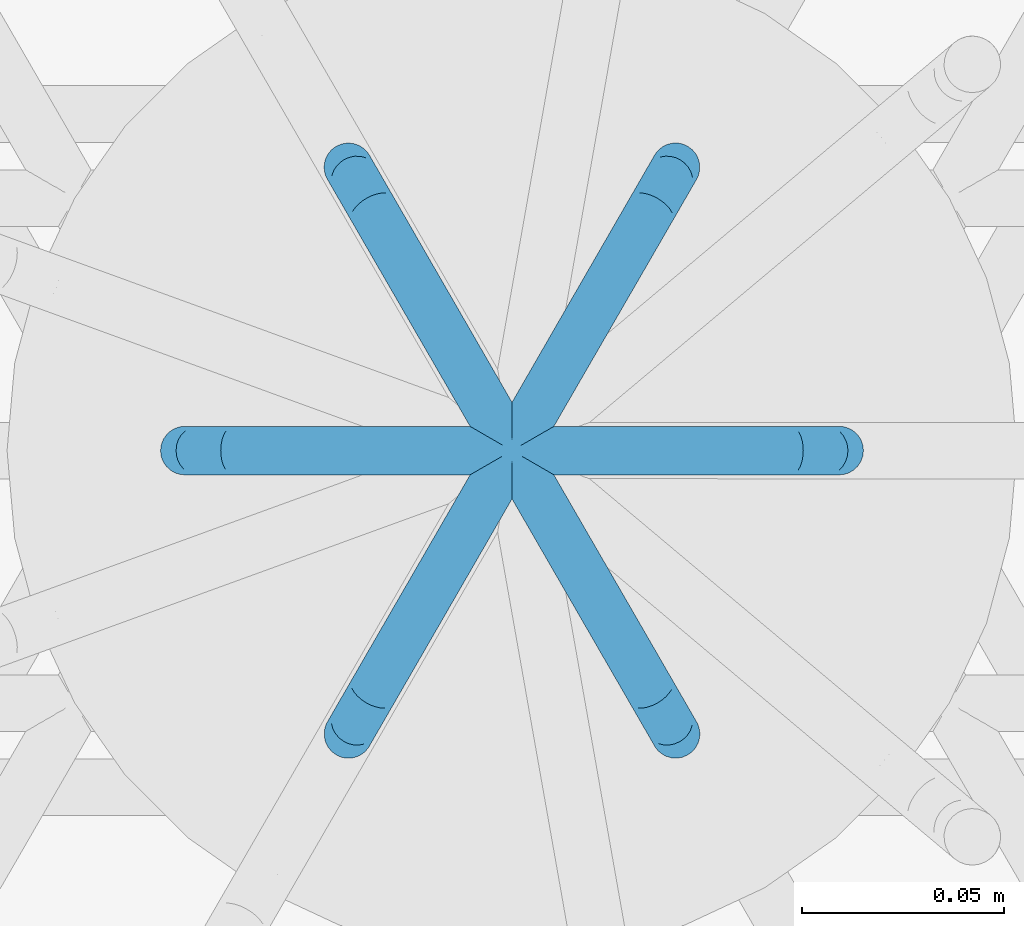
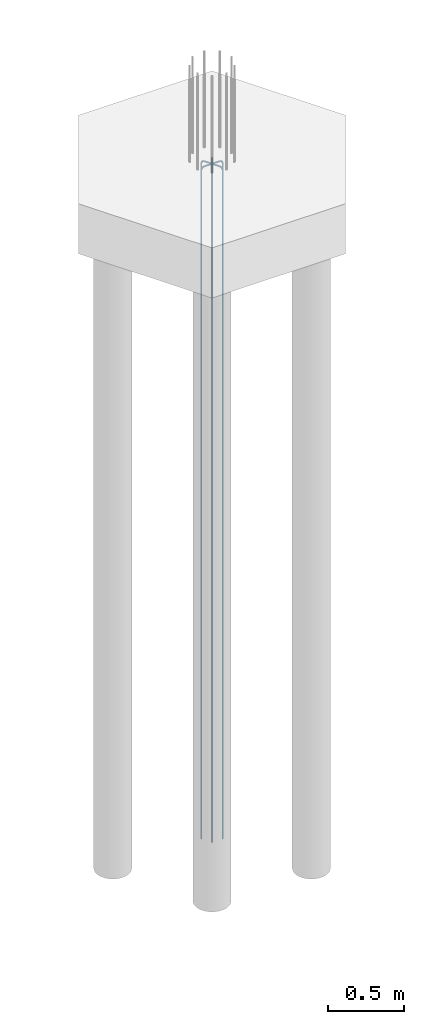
# One storey, part 15 of 23: 1 reinforcing bar.
"""IFC2X3 building model written with IfcOpenShell, lengths in metres."""

from ifc_helpers import new_model, entity, si_unit, direction, frame, origin, place, context, subcontext, project, spatial, shape, source, transform, mapped, element, save


model = new_model("IFC2X3")

# Units and contexts
model_context = context("Model", 3, precision=0.0, world=origin(), true_north=direction((0.0, 1.0)))
plan_context = context("Plan", 3, precision=0.0, world=origin(), true_north=direction((0.0, 1.0)))
body_context = subcontext(model_context, "Body", "Model", "MODEL_VIEW", scale=1.0)
ifc_project = project(units=[si_unit("LENGTHUNIT", "METRE"), si_unit("AREAUNIT", "SQUARE_METRE"), si_unit("VOLUMEUNIT", "CUBIC_METRE"), si_unit("PLANEANGLEUNIT", "RADIAN"), si_unit("THERMODYNAMICTEMPERATUREUNIT", "DEGREE_CELSIUS"), si_unit("FORCEUNIT", "NEWTON"), si_unit("MASSUNIT", "GRAM", prefix="KILO")], contexts=[model_context, plan_context])

# Site, building, storey
placement = place(None, origin())
site = spatial("IfcSite", under=ifc_project, at=placement, Name="Default Site", CompositionType="ELEMENT")
building = spatial("IfcBuilding", under=site, at=placement, Name="Default Building", CompositionType="ELEMENT")
storey_placement = place(placement, frame((0.0, 0.0, 0.0), z_axis=(1.0, 0.0, 0.0), x_axis=(0.0, 0.0, 1.0)))
storey = spatial("IfcBuildingStorey", under=building, at=storey_placement, Name="Piano 0", CompositionType="ELEMENT", Elevation=0.0)

# Reinforcing bar
shared_shape_1 = source(origin(), body_context, None, "AdvancedSweptSolid", [
    entity("IfcSweptDiskSolid", entity("IfcCompositeCurve", [entity("IfcCompositeCurveSegment", "CONTINUOUS", True, entity("IfcPolyline", [entity("IfcCartesianPoint", [0.0, 0.0, 0.0]), entity("IfcCartesianPoint", [-0.096, 0.0, 0.0]), entity("IfcCartesianPoint", [-0.108, 0.0, -0.003215]), entity("IfcCartesianPoint", [-0.116785, 0.0, -0.012]), entity("IfcCartesianPoint", [-0.12, 0.0, -0.024]), entity("IfcCartesianPoint", [-0.12, 0.0, -5.366])]))], False), 0.006, 0.0, 0.0),
])
shared_shape_2 = source(origin(), body_context, None, "AdvancedSweptSolid", [
    entity("IfcSweptDiskSolid", entity("IfcCompositeCurve", [entity("IfcCompositeCurveSegment", "CONTINUOUS", True, entity("IfcPolyline", [entity("IfcCartesianPoint", [0.0, 0.0, 0.0]), entity("IfcCartesianPoint", [-0.096, 0.0, 0.0]), entity("IfcCartesianPoint", [-0.108, 0.0, -0.003215]), entity("IfcCartesianPoint", [-0.116785, 0.0, -0.012]), entity("IfcCartesianPoint", [-0.12, 0.0, -0.024]), entity("IfcCartesianPoint", [-0.12, 0.0, -5.366])]))], False), 0.006, 0.0, 0.0),
])
shared_shape_3 = source(origin(), body_context, None, "AdvancedSweptSolid", [
    entity("IfcSweptDiskSolid", entity("IfcCompositeCurve", [entity("IfcCompositeCurveSegment", "CONTINUOUS", True, entity("IfcPolyline", [entity("IfcCartesianPoint", [0.0, 0.0, 0.0]), entity("IfcCartesianPoint", [-0.096, 0.0, 0.0]), entity("IfcCartesianPoint", [-0.108, 0.0, -0.003215]), entity("IfcCartesianPoint", [-0.116785, 0.0, -0.012]), entity("IfcCartesianPoint", [-0.12, 0.0, -0.024]), entity("IfcCartesianPoint", [-0.12, 0.0, -5.366])]))], False), 0.006, 0.0, 0.0),
])
shared_shape_4 = source(origin(), body_context, None, "AdvancedSweptSolid", [
    entity("IfcSweptDiskSolid", entity("IfcCompositeCurve", [entity("IfcCompositeCurveSegment", "CONTINUOUS", True, entity("IfcPolyline", [entity("IfcCartesianPoint", [0.0, 0.0, 0.0]), entity("IfcCartesianPoint", [-0.096, 0.0, 0.0]), entity("IfcCartesianPoint", [-0.108, 0.0, -0.003215]), entity("IfcCartesianPoint", [-0.116785, 0.0, -0.012]), entity("IfcCartesianPoint", [-0.12, 0.0, -0.024]), entity("IfcCartesianPoint", [-0.12, 0.0, -5.366])]))], False), 0.006, 0.0, 0.0),
])
shared_shape_5 = source(origin(), body_context, None, "AdvancedSweptSolid", [
    entity("IfcSweptDiskSolid", entity("IfcCompositeCurve", [entity("IfcCompositeCurveSegment", "CONTINUOUS", True, entity("IfcPolyline", [entity("IfcCartesianPoint", [0.0, 0.0, 0.0]), entity("IfcCartesianPoint", [-0.096, 0.0, 0.0]), entity("IfcCartesianPoint", [-0.108, 0.0, -0.003215]), entity("IfcCartesianPoint", [-0.116785, 0.0, -0.012]), entity("IfcCartesianPoint", [-0.12, 0.0, -0.024]), entity("IfcCartesianPoint", [-0.12, 0.0, -5.366])]))], False), 0.006, 0.0, 0.0),
])
shared_shape_6 = source(origin(), body_context, None, "AdvancedSweptSolid", [
    entity("IfcSweptDiskSolid", entity("IfcCompositeCurve", [entity("IfcCompositeCurveSegment", "CONTINUOUS", True, entity("IfcPolyline", [entity("IfcCartesianPoint", [0.0, 0.0, 0.0]), entity("IfcCartesianPoint", [-0.096, 0.0, 0.0]), entity("IfcCartesianPoint", [-0.108, 0.0, -0.003215]), entity("IfcCartesianPoint", [-0.116785, 0.0, -0.012]), entity("IfcCartesianPoint", [-0.12, 0.0, -0.024]), entity("IfcCartesianPoint", [-0.12, 0.0, -5.366])]))], False), 0.006, 0.0, 0.0),
])
element("IfcReinforcingBar", 1, at=placement, inside=storey, Name="Arm Principale; Palo:7 Filo:3 [Piano:0]", BarLength=32.916, BarRole="MAIN", BarSurface="TEXTURED", NominalDiameter=0.012, shapes=[
    shape(body_context, None, "MappedRepresentation", [mapped(shared_shape_1, transform((8.039, 0.0, -0.034))), mapped(shared_shape_2, transform((8.0195, 0.033775, -0.034), x_axis=(0.5, 0.866025, 0.0), y_axis=(-0.866025, 0.5, 0.0))), mapped(shared_shape_3, transform((7.9805, 0.033775, -0.034), x_axis=(-0.5, 0.866025, 0.0), y_axis=(-0.866025, -0.5, 0.0))), mapped(shared_shape_4, transform((7.961, 0.0, -0.034), x_axis=(-1.0, 0.0, 0.0), y_axis=(0.0, -1.0, 0.0))), mapped(shared_shape_5, transform((7.9805, -0.033775, -0.034), x_axis=(-0.5, -0.866025, 0.0), y_axis=(0.866025, -0.5, 0.0))), mapped(shared_shape_6, transform((8.0195, -0.033775, -0.034), x_axis=(0.5, -0.866025, 0.0), y_axis=(0.866025, 0.5, 0.0)))]),
])

save(model, "model.ifc")
